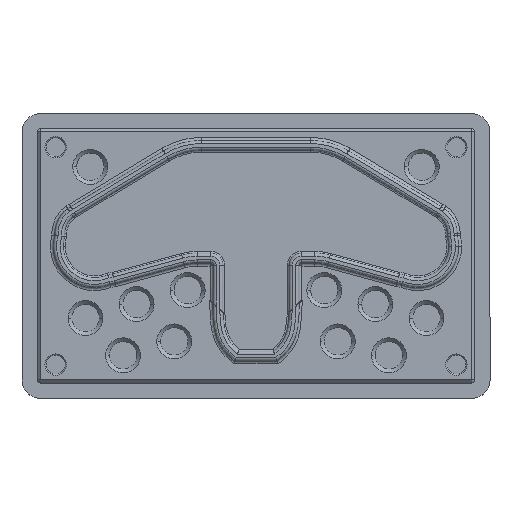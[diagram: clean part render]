
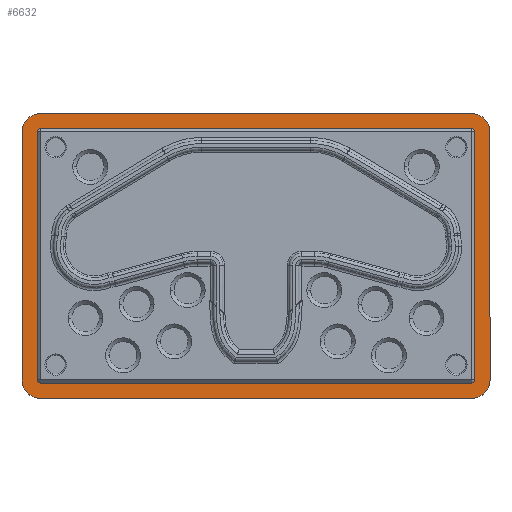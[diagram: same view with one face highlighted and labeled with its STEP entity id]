
A CAD part, top view. The second image highlights one B-rep face of the part: STEP entity #6632.
In plain terms, the highlighted planar face has unit normal (0, 0, 1).
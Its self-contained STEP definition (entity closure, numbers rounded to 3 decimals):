
#47 = CARTESIAN_POINT ( 'NONE',  ( 35.212, -21.75, 5. ) ) ;
#70 = CARTESIAN_POINT ( 'NONE',  ( 35.212, 19.25, 5. ) ) ;
#288 = CIRCLE ( 'NONE', #6316, 3. ) ;
#310 = VECTOR ( 'NONE', #2154, 1000. ) ;
#343 = VERTEX_POINT ( 'NONE', #1371 ) ;
#367 = DIRECTION ( 'NONE',  ( 1., 0., 0. ) ) ;
#373 = AXIS2_PLACEMENT_3D ( 'NONE', #70, #2294, #5781 ) ;
#411 = LINE ( 'NONE', #9051, #691 ) ;
#444 = AXIS2_PLACEMENT_3D ( 'NONE', #3775, #8794, #367 ) ;
#461 = CARTESIAN_POINT ( 'NONE',  ( -38.212, 19.25, 5. ) ) ;
#486 = EDGE_LOOP ( 'NONE', ( #2533, #1468, #8261, #2359, #8767, #4145, #8992, #5133 ) ) ;
#501 = CARTESIAN_POINT ( 'NONE',  ( 38.212, -21.25, 5. ) ) ;
#535 = DIRECTION ( 'NONE',  ( 0., 0., 1. ) ) ;
#561 = VERTEX_POINT ( 'NONE', #5243 ) ;
#591 = DIRECTION ( 'NONE',  ( -1., 0., 0. ) ) ;
#676 = CIRCLE ( 'NONE', #1749, 3. ) ;
#691 = VECTOR ( 'NONE', #4047, 1000. ) ;
#730 = CARTESIAN_POINT ( 'NONE',  ( 35.212, -21.25, 5. ) ) ;
#787 = CARTESIAN_POINT ( 'NONE',  ( 38.212, -21.25, 5. ) ) ;
#801 = ORIENTED_EDGE ( 'NONE', *, *, #6225, .T. ) ;
#804 = CARTESIAN_POINT ( 'NONE',  ( 35.712, -21.25, 5. ) ) ;
#832 = DIRECTION ( 'NONE',  ( 0., 0., 1. ) ) ;
#866 = DIRECTION ( 'NONE',  ( 1., 0., 0. ) ) ;
#1031 = PLANE ( 'NONE',  #444 ) ;
#1043 = CARTESIAN_POINT ( 'NONE',  ( -38.212, -21.25, 5. ) ) ;
#1088 = EDGE_CURVE ( 'NONE', #6787, #5382, #411, .T. ) ;
#1149 = EDGE_CURVE ( 'NONE', #6035, #6787, #1291, .T. ) ;
#1192 = DIRECTION ( 'NONE',  ( -1., 0., 0. ) ) ;
#1205 = LINE ( 'NONE', #501, #2345 ) ;
#1254 = DIRECTION ( 'NONE',  ( 0., 1., 0. ) ) ;
#1291 = CIRCLE ( 'NONE', #1600, 0.5 ) ;
#1340 = LINE ( 'NONE', #7860, #310 ) ;
#1371 = CARTESIAN_POINT ( 'NONE',  ( 35.212, 22.25, 5. ) ) ;
#1389 = DIRECTION ( 'NONE',  ( 1., 0., 0. ) ) ;
#1468 = ORIENTED_EDGE ( 'NONE', *, *, #1149, .F. ) ;
#1600 = AXIS2_PLACEMENT_3D ( 'NONE', #3203, #7585, #4747 ) ;
#1749 = AXIS2_PLACEMENT_3D ( 'NONE', #730, #8047, #1389 ) ;
#1974 = CARTESIAN_POINT ( 'NONE',  ( 35.212, 19.75, 5. ) ) ;
#1975 = EDGE_CURVE ( 'NONE', #5289, #343, #6283, .T. ) ;
#2092 = CARTESIAN_POINT ( 'NONE',  ( -35.712, 19.25, 5. ) ) ;
#2096 = ORIENTED_EDGE ( 'NONE', *, *, #5739, .T. ) ;
#2110 = DIRECTION ( 'NONE',  ( 0., -1., 0. ) ) ;
#2120 = ORIENTED_EDGE ( 'NONE', *, *, #4442, .T. ) ;
#2154 = DIRECTION ( 'NONE',  ( 1., 0., 0. ) ) ;
#2225 = EDGE_LOOP ( 'NONE', ( #2120, #6034, #3230, #9313, #801, #2096, #4196, #5163 ) ) ;
#2294 = DIRECTION ( 'NONE',  ( 0., 0., 1. ) ) ;
#2345 = VECTOR ( 'NONE', #1254, 1000. ) ;
#2359 = ORIENTED_EDGE ( 'NONE', *, *, #3065, .F. ) ;
#2533 = ORIENTED_EDGE ( 'NONE', *, *, #1088, .F. ) ;
#2732 = CARTESIAN_POINT ( 'NONE',  ( -35.212, -21.75, 5. ) ) ;
#2979 = DIRECTION ( 'NONE',  ( 0., 1., 0. ) ) ;
#3065 = EDGE_CURVE ( 'NONE', #5654, #7466, #6943, .T. ) ;
#3100 = VECTOR ( 'NONE', #2110, 1000. ) ;
#3114 = AXIS2_PLACEMENT_3D ( 'NONE', #3823, #8970, #5328 ) ;
#3203 = CARTESIAN_POINT ( 'NONE',  ( -35.212, -21.25, 5. ) ) ;
#3221 = EDGE_CURVE ( 'NONE', #8131, #8920, #1340, .T. ) ;
#3230 = ORIENTED_EDGE ( 'NONE', *, *, #1975, .T. ) ;
#3330 = AXIS2_PLACEMENT_3D ( 'NONE', #4040, #7578, #7533 ) ;
#3429 = DIRECTION ( 'NONE',  ( 1., 0., 0. ) ) ;
#3775 = CARTESIAN_POINT ( 'NONE',  ( 35.212, -21.25, 5. ) ) ;
#3823 = CARTESIAN_POINT ( 'NONE',  ( 35.212, -21.25, 5. ) ) ;
#3909 = FACE_BOUND ( 'NONE', #486, .T. ) ;
#3916 = VERTEX_POINT ( 'NONE', #1043 ) ;
#3995 = LINE ( 'NONE', #1974, #4305 ) ;
#4040 = CARTESIAN_POINT ( 'NONE',  ( -35.212, 19.25, 5. ) ) ;
#4047 = DIRECTION ( 'NONE',  ( 1., 0., 0. ) ) ;
#4056 = VERTEX_POINT ( 'NONE', #6460 ) ;
#4129 = CARTESIAN_POINT ( 'NONE',  ( -35.212, -21.25, 5. ) ) ;
#4145 = ORIENTED_EDGE ( 'NONE', *, *, #4485, .F. ) ;
#4196 = ORIENTED_EDGE ( 'NONE', *, *, #6172, .T. ) ;
#4305 = VECTOR ( 'NONE', #591, 1000. ) ;
#4442 = EDGE_CURVE ( 'NONE', #8920, #5895, #676, .T. ) ;
#4485 = EDGE_CURVE ( 'NONE', #5325, #561, #7018, .T. ) ;
#4544 = VERTEX_POINT ( 'NONE', #4649 ) ;
#4649 = CARTESIAN_POINT ( 'NONE',  ( -35.212, 22.25, 5. ) ) ;
#4657 = AXIS2_PLACEMENT_3D ( 'NONE', #4129, #535, #3429 ) ;
#4663 = VECTOR ( 'NONE', #2979, 1000. ) ;
#4747 = DIRECTION ( 'NONE',  ( 1., 0., 0. ) ) ;
#5016 = DIRECTION ( 'NONE',  ( 0., 0., 1. ) ) ;
#5133 = ORIENTED_EDGE ( 'NONE', *, *, #8753, .F. ) ;
#5163 = ORIENTED_EDGE ( 'NONE', *, *, #3221, .T. ) ;
#5243 = CARTESIAN_POINT ( 'NONE',  ( 35.212, 19.75, 5. ) ) ;
#5289 = VERTEX_POINT ( 'NONE', #8506 ) ;
#5325 = VERTEX_POINT ( 'NONE', #7226 ) ;
#5328 = DIRECTION ( 'NONE',  ( 1., 0., 0. ) ) ;
#5382 = VERTEX_POINT ( 'NONE', #47 ) ;
#5495 = CARTESIAN_POINT ( 'NONE',  ( -35.212, -24.25, 5. ) ) ;
#5654 = VERTEX_POINT ( 'NONE', #8296 ) ;
#5714 = VECTOR ( 'NONE', #1192, 1000. ) ;
#5739 = EDGE_CURVE ( 'NONE', #4056, #3916, #6885, .T. ) ;
#5781 = DIRECTION ( 'NONE',  ( 1., 0., 0. ) ) ;
#5895 = VERTEX_POINT ( 'NONE', #787 ) ;
#6034 = ORIENTED_EDGE ( 'NONE', *, *, #9256, .T. ) ;
#6035 = VERTEX_POINT ( 'NONE', #7618 ) ;
#6066 = EDGE_CURVE ( 'NONE', #343, #4544, #8477, .T. ) ;
#6115 = CIRCLE ( 'NONE', #3114, 0.5 ) ;
#6139 = VERTEX_POINT ( 'NONE', #6332 ) ;
#6172 = EDGE_CURVE ( 'NONE', #3916, #8131, #9354, .T. ) ;
#6225 = EDGE_CURVE ( 'NONE', #4544, #4056, #288, .T. ) ;
#6235 = CARTESIAN_POINT ( 'NONE',  ( -35.712, 19.25, 5. ) ) ;
#6283 = CIRCLE ( 'NONE', #8312, 3. ) ;
#6316 = AXIS2_PLACEMENT_3D ( 'NONE', #6616, #5016, #866 ) ;
#6332 = CARTESIAN_POINT ( 'NONE',  ( 35.712, -21.25, 5. ) ) ;
#6460 = CARTESIAN_POINT ( 'NONE',  ( -38.212, 19.25, 5. ) ) ;
#6525 = EDGE_CURVE ( 'NONE', #6139, #5325, #7277, .T. ) ;
#6616 = CARTESIAN_POINT ( 'NONE',  ( -35.212, 19.25, 5. ) ) ;
#6632 = ADVANCED_FACE ( 'NONE', ( #3909, #8210 ), #1031, .T. ) ;
#6787 = VERTEX_POINT ( 'NONE', #2732 ) ;
#6885 = LINE ( 'NONE', #461, #3100 ) ;
#6943 = CIRCLE ( 'NONE', #3330, 0.5 ) ;
#7018 = CIRCLE ( 'NONE', #373, 0.5 ) ;
#7054 = CARTESIAN_POINT ( 'NONE',  ( 35.212, 22.25, 5. ) ) ;
#7157 = CARTESIAN_POINT ( 'NONE',  ( 35.212, 19.25, 5. ) ) ;
#7226 = CARTESIAN_POINT ( 'NONE',  ( 35.712, 19.25, 5. ) ) ;
#7277 = LINE ( 'NONE', #804, #4663 ) ;
#7305 = DIRECTION ( 'NONE',  ( 1., 0., 0. ) ) ;
#7466 = VERTEX_POINT ( 'NONE', #2092 ) ;
#7533 = DIRECTION ( 'NONE',  ( 1., 0., 0. ) ) ;
#7539 = EDGE_CURVE ( 'NONE', #7466, #6035, #7656, .T. ) ;
#7578 = DIRECTION ( 'NONE',  ( 0., 0., 1. ) ) ;
#7585 = DIRECTION ( 'NONE',  ( 0., 0., 1. ) ) ;
#7618 = CARTESIAN_POINT ( 'NONE',  ( -35.712, -21.25, 5. ) ) ;
#7656 = LINE ( 'NONE', #6235, #8309 ) ;
#7860 = CARTESIAN_POINT ( 'NONE',  ( -35.212, -24.25, 5. ) ) ;
#8047 = DIRECTION ( 'NONE',  ( 0., 0., 1. ) ) ;
#8131 = VERTEX_POINT ( 'NONE', #5495 ) ;
#8210 = FACE_OUTER_BOUND ( 'NONE', #2225, .T. ) ;
#8261 = ORIENTED_EDGE ( 'NONE', *, *, #7539, .F. ) ;
#8296 = CARTESIAN_POINT ( 'NONE',  ( -35.212, 19.75, 5. ) ) ;
#8309 = VECTOR ( 'NONE', #9133, 1000. ) ;
#8312 = AXIS2_PLACEMENT_3D ( 'NONE', #7157, #832, #7305 ) ;
#8477 = LINE ( 'NONE', #7054, #5714 ) ;
#8506 = CARTESIAN_POINT ( 'NONE',  ( 38.212, 19.25, 5. ) ) ;
#8753 = EDGE_CURVE ( 'NONE', #5382, #6139, #6115, .T. ) ;
#8767 = ORIENTED_EDGE ( 'NONE', *, *, #9275, .F. ) ;
#8794 = DIRECTION ( 'NONE',  ( 0., 0., 1. ) ) ;
#8920 = VERTEX_POINT ( 'NONE', #9060 ) ;
#8970 = DIRECTION ( 'NONE',  ( 0., 0., 1. ) ) ;
#8992 = ORIENTED_EDGE ( 'NONE', *, *, #6525, .F. ) ;
#9051 = CARTESIAN_POINT ( 'NONE',  ( -35.212, -21.75, 5. ) ) ;
#9060 = CARTESIAN_POINT ( 'NONE',  ( 35.212, -24.25, 5. ) ) ;
#9133 = DIRECTION ( 'NONE',  ( 0., -1., 0. ) ) ;
#9256 = EDGE_CURVE ( 'NONE', #5895, #5289, #1205, .T. ) ;
#9275 = EDGE_CURVE ( 'NONE', #561, #5654, #3995, .T. ) ;
#9313 = ORIENTED_EDGE ( 'NONE', *, *, #6066, .T. ) ;
#9354 = CIRCLE ( 'NONE', #4657, 3. ) ;
